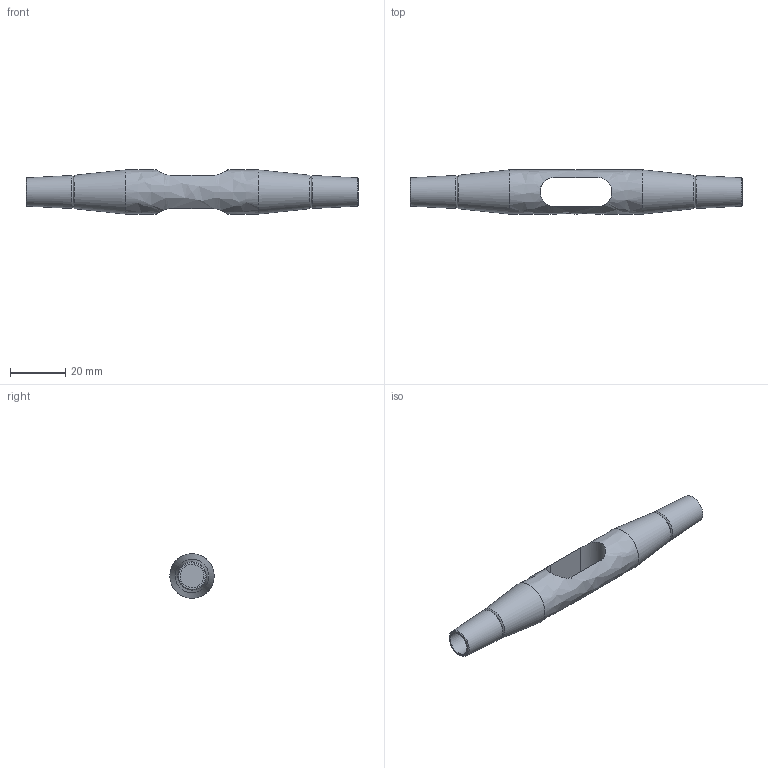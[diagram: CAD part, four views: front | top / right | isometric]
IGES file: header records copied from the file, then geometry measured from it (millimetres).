
Global section: file name: 520-008-KMF; native system: Autodesk Inventor 2016; preprocessor: unknown; author: Administrator; date: 20200702.131639; units: centimetre
Bounding box: 120 x 16 x 16 mm (x, y, z)
Volume: 13675.8 mm3; surface area: 6450.8 mm2
Topology: 1 solids, 1 shells, 21 faces, 55 edges, 38 vertices
Faces by surface type: bspline 21
